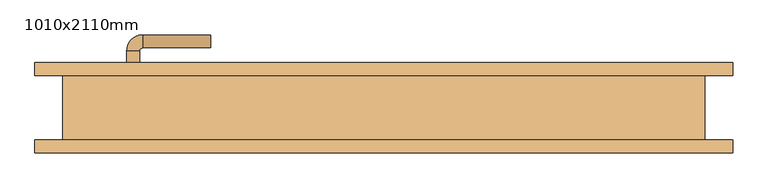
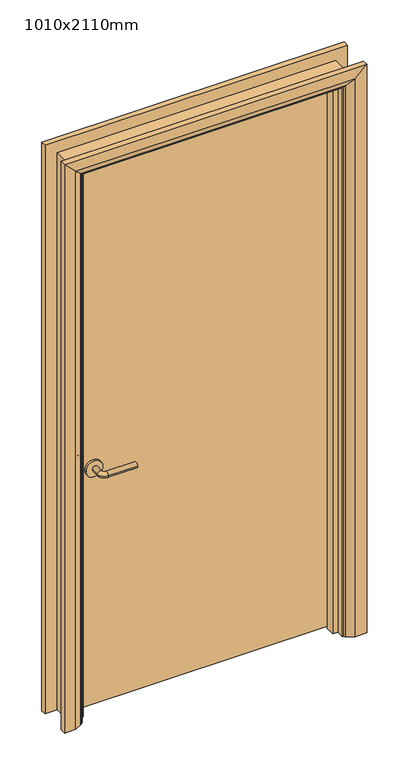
"""IFC4 building model written with IfcOpenShell, lengths in millimetres: door geometry, BIMHealth-Single_Door-LOD2A-v1 : 1010x2110mm."""

from ifc_helpers import new_model, si_unit, point, frame, frame_2d, origin, place, context, project, spatial, polyline, circle_curve, ellipse_curve, trimmed, segment, composite_curve, outline, extrude, faceted_brep, source, transform, mapped, element, save
from ifc_brep_helpers import plane_surface, cylinder_surface, revolved_surface, advanced_brep


def door_1010x2110mm_f9eb5fde(model_context):
    return source(origin(), model_context, "Body", "SolidModel", [
        advanced_brep(
        [(-398.0, 4.0, 900.0), (-378.0, 4.0, 900.0), (-378.0, -26.0, 900.0), (-398.0, -26.0, 900.0), (-373.0, -31.0, 900.0), (-373.0, -51.0, 900.0), (-268.0, -51.0, 900.0), (-268.0, -31.0, 900.0)],
        [
            (0, 1, circle_curve(frame((-388.0, 4.0, 900.0), z_axis=(0.0, 1.0, 0.0), x_axis=(1.0, 0.0, 0.0)), 10.0)),
            (1, 0, circle_curve(frame((-388.0, 4.0, 900.0), z_axis=(0.0, 1.0, 0.0), x_axis=(1.0, 0.0, 0.0)), 10.0)),
            (1, 2),
            (2, 3, circle_curve(frame((-388.0, -26.0, 900.0), z_axis=(0.0, 1.0, 0.0), x_axis=(1.0, 0.0, 0.0)), 10.0)),
            (3, 0),
            (3, 2, circle_curve(frame((-388.0, -26.0, 900.0), z_axis=(0.0, 1.0, 0.0), x_axis=(1.0, 0.0, 0.0)), 10.0)),
            (4, 5, circle_curve(frame((-373.0, -41.0, 900.0), z_axis=(-1.0, 0.0, 0.0), x_axis=(0.0, 1.0, 0.0)), 10.0)),
            (5, 3, circle_curve(frame((-373.0, -26.0, 900.0), z_axis=(0.0, 0.0, -1.0), x_axis=(-1.0, 0.0, 0.0)), 25.0)),
            (2, 4, circle_curve(frame((-373.0, -26.0, 900.0), z_axis=(0.0, 0.0, 1.0), x_axis=(-1.0, 0.0, 0.0)), 5.0)),
            (5, 4, circle_curve(frame((-373.0, -41.0, 900.0), z_axis=(-1.0, 0.0, 0.0), x_axis=(0.0, 1.0, 0.0)), 10.0)),
            (6, 7, circle_curve(frame((-268.0, -41.0, 900.0), z_axis=(1.0, 0.0, 0.0), x_axis=(0.0, 1.0, 0.0)), 10.0)),
            (7, 6, circle_curve(frame((-268.0, -41.0, 900.0), z_axis=(1.0, 0.0, 0.0), x_axis=(0.0, 1.0, 0.0)), 10.0)),
            (4, 7),
            (6, 5),
        ],
        [
            plane_surface(frame((-388.0, 4.0, 900.0), z_axis=(0.0, 1.0, 0.0), x_axis=(0.0, 0.0, 1.0))),
            cylinder_surface(frame((-388.0, 4.0, 900.0), z_axis=(0.0, 1.0, 0.0), x_axis=(1.0, 0.0, 0.0)), 10.0),
            revolved_surface(trimmed(ellipse_curve(frame((-388.0, -26.0, 900.0), z_axis=(0.0, -1.0, 0.0), x_axis=(1.0, 0.0, 0.0)), 10.0, 10.0), [point((-398.0, -26.0, 900.0))], [point((-378.0, -26.0, 900.0))], True, "CARTESIAN"), (-373.0, -26.0, 900.0), (0.0, 0.0, -1.0)),
            revolved_surface(trimmed(ellipse_curve(frame((-388.0, -26.0, 900.0), z_axis=(0.0, -1.0, 0.0), x_axis=(1.0, 0.0, 0.0)), 10.0, 10.0), [point((-378.0, -26.0, 900.0))], [point((-398.0, -26.0, 900.0))], True, "CARTESIAN"), (-373.0, -26.0, 900.0), (0.0, 0.0, -1.0)),
            plane_surface(frame((-268.0, -41.0, 900.0), z_axis=(1.0, 0.0, 0.0), x_axis=(0.0, 0.0, 1.0))),
            cylinder_surface(frame((-373.0, -41.0, 900.0), z_axis=(-1.0, 0.0, 0.0), x_axis=(0.0, 1.0, 0.0)), 10.0),
        ],
        [
            (0, [[1, 2]]),
            (1, [[3, 4, 5, -2]]),
            (1, [[-5, 6, -3, -1]]),
            (2, [[7, 8, -4, 9]]),
            (3, [[10, -9, -6, -8]]),
            (4, [[11, 12]]),
            (5, [[13, -11, 14, -7]]),
            (5, [[-14, -12, -13, -10]]),
        ],
    ),
        extrude(outline(composite_curve([segment(trimmed(circle_curve(frame_2d((900.0, -390.5)), 30.0), [point((900.0, -420.5))], [point((900.0, -360.5))], False, "CARTESIAN"), True, "CONTINUOUS"), segment(trimmed(circle_curve(frame_2d((900.0, -390.5)), 30.0), [point((900.0, -360.5))], [point((900.0, -420.5))], False, "CARTESIAN"), True, "CONTINUOUS")], self_intersect=False)), frame((0.0, 4.0, 0.0), z_axis=(0.0, 1.0, 0.0), x_axis=(0.0, 0.0, 1.0)), (0.0, 0.0, 1.0), 8.0),
        advanced_brep(
        [(-398.0, 58.0, 900.0), (-378.0, 58.0, 900.0), (-398.0, 88.0, 900.0), (-378.0, 88.0, 900.0), (-373.0, 93.0, 900.0), (-373.0, 113.0, 900.0), (-268.0, 113.0, 900.0), (-268.0, 93.0, 900.0)],
        [
            (0, 1, circle_curve(frame((-388.0, 58.0, 900.0), z_axis=(0.0, -1.0, 0.0), x_axis=(1.0, 0.0, 0.0)), 10.0)),
            (1, 0, circle_curve(frame((-388.0, 58.0, 900.0), z_axis=(0.0, -1.0, 0.0), x_axis=(1.0, 0.0, 0.0)), 10.0)),
            (0, 2),
            (2, 3, circle_curve(frame((-388.0, 88.0, 900.0), z_axis=(0.0, -1.0, 0.0), x_axis=(1.0, 0.0, 0.0)), 10.0)),
            (3, 1),
            (3, 2, circle_curve(frame((-388.0, 88.0, 900.0), z_axis=(0.0, -1.0, 0.0), x_axis=(1.0, 0.0, 0.0)), 10.0)),
            (4, 3, circle_curve(frame((-373.0, 88.0, 900.0), z_axis=(0.0, 0.0, 1.0), x_axis=(-1.0, 0.0, 0.0)), 5.0)),
            (2, 5, circle_curve(frame((-373.0, 88.0, 900.0), z_axis=(0.0, 0.0, -1.0), x_axis=(-1.0, 0.0, 0.0)), 25.0)),
            (5, 4, circle_curve(frame((-373.0, 103.0, 900.0), z_axis=(-1.0, 0.0, 0.0), x_axis=(0.0, -1.0, 0.0)), 10.0)),
            (4, 5, circle_curve(frame((-373.0, 103.0, 900.0), z_axis=(-1.0, 0.0, 0.0), x_axis=(0.0, -1.0, 0.0)), 10.0)),
            (6, 7, circle_curve(frame((-268.0, 103.0, 900.0), z_axis=(1.0, 0.0, 0.0), x_axis=(0.0, -1.0, 0.0)), 10.0)),
            (7, 6, circle_curve(frame((-268.0, 103.0, 900.0), z_axis=(1.0, 0.0, 0.0), x_axis=(0.0, -1.0, 0.0)), 10.0)),
            (5, 6),
            (7, 4),
        ],
        [
            plane_surface(frame((-388.0, 58.0, 900.0), z_axis=(0.0, -1.0, 0.0), x_axis=(0.0, 0.0, 1.0))),
            cylinder_surface(frame((-388.0, 58.0, 900.0), z_axis=(0.0, -1.0, 0.0), x_axis=(1.0, 0.0, 0.0)), 10.0),
            revolved_surface(trimmed(ellipse_curve(frame((-388.0, 88.0, 900.0), z_axis=(0.0, -1.0, 0.0), x_axis=(1.0, 0.0, 0.0)), 10.0, 10.0), [point((-398.0, 88.0, 900.0))], [point((-378.0, 88.0, 900.0))], True, "CARTESIAN"), (-373.0, 88.0, 900.0), (0.0, 0.0, -1.0)),
            revolved_surface(trimmed(ellipse_curve(frame((-388.0, 88.0, 900.0), z_axis=(0.0, -1.0, 0.0), x_axis=(1.0, 0.0, 0.0)), 10.0, 10.0), [point((-378.0, 88.0, 900.0))], [point((-398.0, 88.0, 900.0))], True, "CARTESIAN"), (-373.0, 88.0, 900.0), (0.0, 0.0, -1.0)),
            plane_surface(frame((-268.0, 103.0, 900.0), z_axis=(1.0, 0.0, 0.0), x_axis=(0.0, 0.0, 1.0))),
            cylinder_surface(frame((-373.0, 103.0, 900.0), z_axis=(-1.0, 0.0, 0.0), x_axis=(0.0, -1.0, 0.0)), 10.0),
        ],
        [
            (0, [[1, 2]]),
            (1, [[-1, 3, 4, 5]]),
            (1, [[-2, -5, 6, -3]]),
            (2, [[7, -4, 8, 9]]),
            (3, [[-8, -6, -7, 10]]),
            (4, [[11, 12]]),
            (5, [[-9, 13, -12, 14]]),
            (5, [[-10, -14, -11, -13]]),
        ],
    ),
        extrude(outline(composite_curve([segment(trimmed(circle_curve(frame_2d((900.0, -390.5)), 30.0), [point((900.0, -420.5))], [point((900.0, -360.5))], False, "CARTESIAN"), True, "CONTINUOUS"), segment(trimmed(circle_curve(frame_2d((900.0, -390.5)), 30.0), [point((900.0, -360.5))], [point((900.0, -420.5))], False, "CARTESIAN"), True, "CONTINUOUS")], self_intersect=False)), frame((0.0, 50.0, 0.0), z_axis=(0.0, 1.0, 0.0), x_axis=(0.0, 0.0, 1.0)), (0.0, 0.0, 1.0), 8.0),
        extrude(outline(polyline([(463.0, 12.0), (-463.0, 12.0), (-463.0, 50.0), (463.0, 50.0), (463.0, 12.0)])), frame((0.0, 0.0, 8.0), z_axis=(0.0, 0.0, 1.0), x_axis=(1.0, 0.0, 0.0)), (0.0, 0.0, 1.0), 2060.0),
        advanced_brep(
        [(540.0, 70.0, 0.0), (540.0, 50.0, 0.0), (470.0, 50.0, 0.0), (474.0, 56.0, 0.0), (500.0, 70.0, 0.0), (540.0, 70.0, 2145.0), (540.0, 50.0, 2145.0), (-540.0, 50.0, 2145.0), (-540.0, 50.0, 0.0), (-470.0, 50.0, 0.0), (-470.0, 50.0, 2075.0), (470.0, 50.0, 2075.0), (474.0, 56.0, 2079.0), (500.0, 70.0, 2105.0), (-500.0, 70.0, 2105.0), (-500.0, 70.0, 0.0), (-540.0, 70.0, 0.0), (-540.0, 70.0, 2145.0), (-474.0, 56.0, 0.0), (-474.0, 56.0, 2079.0)],
        [
            (0, 1),
            (1, 2),
            (2, 3, circle_curve(frame((478.0, 49.0, 0.0), z_axis=(0.0, 0.0, -1.0), x_axis=(1.0, 0.0, 0.0)), 8.0622577)),
            (3, 4),
            (4, 0),
            (0, 5),
            (5, 6),
            (6, 1),
            (6, 7),
            (7, 8),
            (8, 9),
            (9, 10),
            (10, 11),
            (11, 2),
            (11, 12, ellipse_curve(frame((478.0, 49.0, 2083.0), z_axis=(0.7071067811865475, 0.0, -0.7071067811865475), x_axis=(-0.7071067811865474, 0.0, -0.7071067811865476)), 11.4017543, 8.0622577)),
            (12, 3),
            (12, 13),
            (13, 4),
            (13, 14),
            (14, 15),
            (15, 16),
            (16, 17),
            (17, 5),
            (7, 17),
            (16, 8),
            (15, 18),
            (18, 9, circle_curve(frame((-478.0, 49.0, 0.0), z_axis=(0.0, 0.0, -1.0), x_axis=(-1.0, 0.0, 0.0)), 8.0622577)),
            (19, 10, ellipse_curve(frame((-478.0, 49.0, 2083.0), z_axis=(-0.7071067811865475, 0.0, -0.7071067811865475), x_axis=(-0.7071067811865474, 0.0, 0.7071067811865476)), 11.4017543, 8.0622577)),
            (18, 19),
            (14, 19),
            (19, 12),
        ],
        [
            plane_surface(frame((470.0, 50.0, 0.0), z_axis=(0.0, 0.0, -1.0), x_axis=(0.0, -1.0, 0.0))),
            plane_surface(frame((540.0, 70.0, 0.0), z_axis=(1.0, 0.0, 0.0), x_axis=(0.0, 0.0, 1.0))),
            plane_surface(frame((540.0, 50.0, 0.0), z_axis=(0.0, -1.0, 0.0), x_axis=(0.0, 0.0, 1.0))),
            cylinder_surface(frame((478.0, 49.0, 0.0), z_axis=(0.0, 0.0, -1.0), x_axis=(1.0, 0.0, 0.0)), 8.0622577),
            plane_surface(frame((474.0, 56.0, 0.0), z_axis=(-0.4740998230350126, 0.880471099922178, 0.0), x_axis=(0.0, 0.0, 1.0))),
            plane_surface(frame((500.0, 70.0, 0.0), z_axis=(0.0, 1.0, 0.0), x_axis=(0.0, 0.0, 1.0))),
            plane_surface(frame((-540.0, 70.0, 2145.0), z_axis=(-1.0, 0.0, 0.0), x_axis=(0.0, 0.0, -1.0))),
            plane_surface(frame((-470.0, 50.0, 0.0), z_axis=(0.0, 0.0, -1.0), x_axis=(0.0, -1.0, 0.0))),
            cylinder_surface(frame((-478.0, 49.0, 2075.0), z_axis=(0.0, 0.0, 1.0), x_axis=(-1.0, 0.0, 0.0)), 8.0622577),
            plane_surface(frame((-474.0, 56.0, 2079.0), z_axis=(0.47409982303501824, 0.8804710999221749, 0.0), x_axis=(0.0, 0.0, -1.0))),
            plane_surface(frame((540.0, 70.0, 2145.0), z_axis=(0.0, 0.0, 1.0), x_axis=(-1.0, 0.0, 0.0))),
            cylinder_surface(frame((470.0, 49.0, 2083.0), z_axis=(1.0, 0.0, 0.0), x_axis=(0.0, 0.0, 1.0)), 8.0622577),
            plane_surface(frame((474.0, 56.0, 2079.0), z_axis=(0.0, 0.8804710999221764, -0.4740998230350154), x_axis=(-1.0, 0.0, 0.0))),
        ],
        [
            (0, [[1, 2, 3, 4, 5]]),
            (1, [[-1, 6, 7, 8]]),
            (2, [[-2, -8, 9, 10, 11, 12, 13, 14]]),
            (3, [[-3, -14, 15, 16]]),
            (4, [[-4, -16, 17, 18]]),
            (5, [[-5, -18, 19, 20, 21, 22, 23, -6]]),
            (6, [[24, -22, 25, -10]]),
            (7, [[-21, 26, 27, -11, -25]]),
            (8, [[28, -12, -27, 29]]),
            (9, [[30, -29, -26, -20]]),
            (10, [[-7, -23, -24, -9]]),
            (11, [[-15, -13, -28, 31]]),
            (12, [[-17, -31, -30, -19]]),
        ],
    ),
        extrude(outline(polyline([(0.0, -465.0), (0.0, -446.0), (2051.0, -446.0), (2051.0, 446.0), (0.0, 446.0), (0.0, 465.0), (2070.0, 465.0), (2070.0, -465.0), (0.0, -465.0)])), frame((0.0, -22.0, 0.0), z_axis=(0.0, 1.0, 0.0), x_axis=(0.0, 0.0, 1.0)), (0.0, 0.0, 1.0), 32.0),
        advanced_brep(
        [(-540.0, -70.0, 0.0), (-540.0, -50.0, 0.0), (-470.0, -50.0, 0.0), (-474.0, -56.0, 0.0), (-500.0, -70.0, 0.0), (-540.0, -70.0, 2145.0), (-540.0, -50.0, 2145.0), (-470.0, -50.0, 2075.0), (-474.0, -56.0, 2079.0), (-500.0, -70.0, 2105.0), (540.0, -70.0, 0.0), (500.0, -70.0, 0.0), (474.0, -56.0, 0.0), (470.0, -50.0, 0.0), (540.0, -50.0, 0.0), (540.0, -70.0, 2145.0), (500.0, -70.0, 2105.0), (474.0, -56.0, 2079.0), (470.0, -50.0, 2075.0), (540.0, -50.0, 2145.0)],
        [
            (0, 1),
            (1, 2),
            (2, 3, circle_curve(frame((-478.0, -49.0, 0.0), z_axis=(0.0, 0.0, -1.0), x_axis=(-1.0, 0.0, 0.0)), 8.0622577)),
            (3, 4),
            (4, 0),
            (0, 5),
            (5, 6),
            (6, 1),
            (6, 7),
            (7, 2),
            (7, 8, ellipse_curve(frame((-478.0, -49.0, 2083.0), z_axis=(-0.7071067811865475, 0.0, -0.7071067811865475), x_axis=(0.7071067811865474, 0.0, -0.7071067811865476)), 11.4017543, 8.0622577)),
            (8, 3),
            (8, 9),
            (9, 4),
            (9, 5),
            (10, 11),
            (11, 12),
            (12, 13, circle_curve(frame((478.0, -49.0, 0.0), z_axis=(0.0, 0.0, -1.0), x_axis=(1.0, 0.0, 0.0)), 8.0622577)),
            (13, 14),
            (14, 10),
            (15, 16),
            (16, 11),
            (10, 15),
            (16, 17),
            (17, 12),
            (17, 18, ellipse_curve(frame((478.0, -49.0, 2083.0), z_axis=(0.7071067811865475, 0.0, -0.7071067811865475), x_axis=(0.7071067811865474, 0.0, 0.7071067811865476)), 11.4017543, 8.0622577)),
            (18, 13),
            (18, 19),
            (19, 14),
            (19, 15),
            (5, 15),
            (19, 6),
            (18, 7),
            (17, 8),
            (16, 9),
        ],
        [
            plane_surface(frame((-470.0, -122.8010989, 0.0), z_axis=(0.0, 0.0, -1.0), x_axis=(1.0, 0.0, 0.0))),
            plane_surface(frame((-540.0, -70.0, 0.0), z_axis=(-1.0, 0.0, 0.0), x_axis=(0.0, 0.0, 1.0))),
            plane_surface(frame((-540.0, -50.0, 0.0), z_axis=(0.0, 1.0, 0.0), x_axis=(0.0, 0.0, 1.0))),
            cylinder_surface(frame((-478.0, -49.0, 0.0), z_axis=(0.0, 0.0, -1.0), x_axis=(-1.0, 0.0, 0.0)), 8.0622577),
            plane_surface(frame((-474.0, -56.0, 0.0), z_axis=(0.4740998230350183, -0.8804710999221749, 0.0), x_axis=(0.0, 0.0, 1.0))),
            plane_surface(frame((-500.0, -70.0, 0.0), z_axis=(0.0, -1.0, 0.0), x_axis=(0.0, 0.0, 1.0))),
            plane_surface(frame((470.0, -122.8010989, 0.0), z_axis=(0.0, 0.0, -1.0), x_axis=(-1.0, 0.0, 0.0))),
            plane_surface(frame((500.0, -70.0, 2105.0), z_axis=(0.0, -1.0, 0.0), x_axis=(0.0, 0.0, -1.0))),
            plane_surface(frame((474.0, -56.0, 2079.0), z_axis=(-0.4740998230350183, -0.8804710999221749, 0.0), x_axis=(0.0, 0.0, -1.0))),
            cylinder_surface(frame((478.0, -49.0, 2075.0), z_axis=(0.0, 0.0, 1.0), x_axis=(1.0, 0.0, 0.0)), 8.0622577),
            plane_surface(frame((540.0, -50.0, 2145.0), z_axis=(0.0, 1.0, 0.0), x_axis=(0.0, 0.0, -1.0))),
            plane_surface(frame((540.0, -70.0, 2145.0), z_axis=(1.0, 0.0, 0.0), x_axis=(0.0, 0.0, -1.0))),
            plane_surface(frame((-540.0, -70.0, 2145.0), z_axis=(0.0, 0.0, 1.0), x_axis=(1.0, 0.0, 0.0))),
            plane_surface(frame((-540.0, -50.0, 2145.0), z_axis=(0.0, 1.0, 0.0), x_axis=(1.0, 0.0, 0.0))),
            cylinder_surface(frame((-470.0, -49.0, 2083.0), z_axis=(-1.0, 0.0, 0.0), x_axis=(0.0, 0.0, 1.0)), 8.0622577),
            plane_surface(frame((-474.0, -56.0, 2079.0), z_axis=(0.0, -0.8804710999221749, -0.4740998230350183), x_axis=(1.0, 0.0, 0.0))),
            plane_surface(frame((-500.0, -70.0, 2105.0), z_axis=(0.0, -1.0, 0.0), x_axis=(1.0, 0.0, 0.0))),
        ],
        [
            (0, [[1, 2, 3, 4, 5]]),
            (1, [[-1, 6, 7, 8]]),
            (2, [[-2, -8, 9, 10]]),
            (3, [[-3, -10, 11, 12]]),
            (4, [[-4, -12, 13, 14]]),
            (5, [[-5, -14, 15, -6]]),
            (6, [[16, 17, 18, 19, 20]]),
            (7, [[21, 22, -16, 23]]),
            (8, [[24, 25, -17, -22]]),
            (9, [[26, 27, -18, -25]]),
            (10, [[28, 29, -19, -27]]),
            (11, [[30, -23, -20, -29]]),
            (12, [[-7, 31, -30, 32]]),
            (13, [[-9, -32, -28, 33]]),
            (14, [[-11, -33, -26, 34]]),
            (15, [[-13, -34, -24, 35]]),
            (16, [[-15, -35, -21, -31]]),
        ],
    ),
        faceted_brep([(-465.0, 50.0, 0.0), (-465.0, -50.0, 0.0), (-497.0, -50.0, 0.0), (-497.0, 50.0, 0.0), (-465.0, 50.0, 2070.0), (-465.0, -50.0, 2070.0), (-497.0, -50.0, 2102.0), (-497.0, 50.0, 2102.0), (465.0, 50.0, 0.0), (497.0, 50.0, 0.0), (497.0, -50.0, 0.0), (465.0, -50.0, 0.0), (465.0, 50.0, 2070.0), (497.0, 50.0, 2102.0), (497.0, -50.0, 2102.0), (465.0, -50.0, 2070.0)], [[[0, 1, 2, 3]], [[1, 0, 4, 5]], [[2, 1, 5, 6]], [[3, 2, 6, 7]], [[0, 3, 7, 4]], [[8, 9, 10, 11]], [[12, 13, 9, 8]], [[13, 14, 10, 9]], [[14, 15, 11, 10]], [[15, 12, 8, 11]], [[5, 4, 12, 15]], [[6, 5, 15, 14]], [[7, 6, 14, 13]], [[4, 7, 13, 12]]]),
    ])


if __name__ == "__main__":
    model = new_model("IFC4")
    model_context = context("Model", 3, world=origin())
    ifc_project = project(units=[si_unit("LENGTHUNIT", "METRE", prefix="MILLI")], contexts=[model_context])
    site = spatial("IfcSite", under=ifc_project)
    building = spatial("IfcBuilding", under=site)
    placement = place(None, origin())
    door_1010x2110mm_shape = door_1010x2110mm_f9eb5fde(model_context)
    element("IfcDoor", 1, ObjectType="BIMHealth-Single_Door-LOD2A-v1 : 1010x2110mm", at=placement, inside=building, context=model_context, shape_type="MappedRepresentation", body=[
        mapped(door_1010x2110mm_shape, transform((0.0, 0.0, 0.0), x_axis=(1.0, 0.0, 0.0), y_axis=(0.0, 1.0, 0.0), z_axis=(0.0, 0.0, 1.0))),
    ])
    save(model, "model.ifc")
